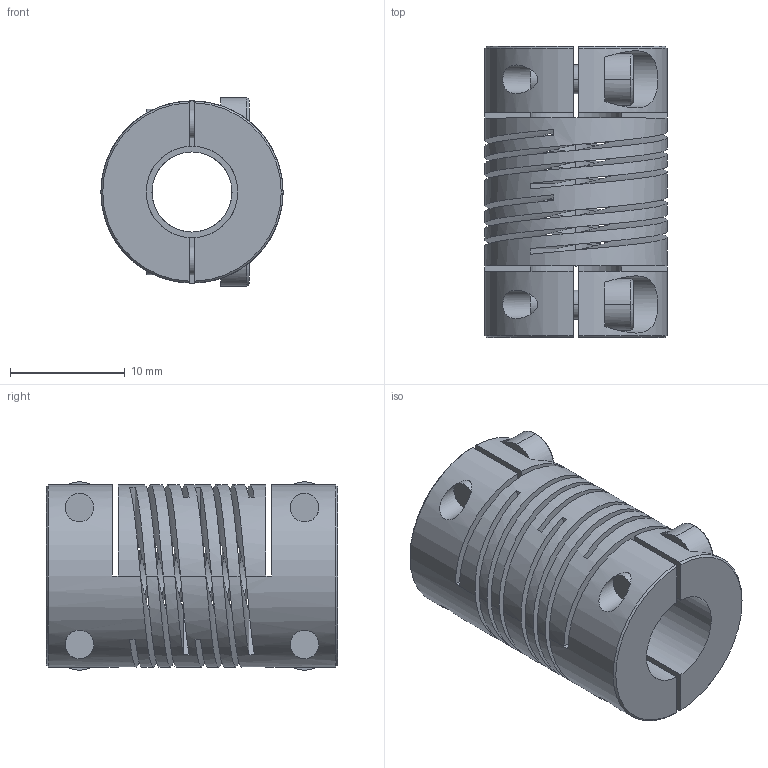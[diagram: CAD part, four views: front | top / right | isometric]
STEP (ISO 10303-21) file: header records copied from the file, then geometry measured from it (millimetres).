
FILE_DESCRIPTION((''),'2;1');
FILE_NAME('703_16','2006-12-06T',('Gary Melling'),(''),'PRO/ENGINEER BY PARAMETRIC TECHNOLOGY CORPORATION, 2006240','PRO/ENGINEER BY PARAMETRIC TECHNOLOGY CORPORATION, 2006240','');
FILE_SCHEMA(('CONFIG_CONTROL_DESIGN'));
Length unit declared in the file: millimetre
Products named in the file (1): 703_16
Bounding box: 15.9 x 25.4 x 16.45 mm (x, y, z)
Volume: 3225.3 mm3; surface area: 4717.8 mm2
Topology: 1 solids, 1 shells, 156 faces, 426 edges, 272 vertices
Faces by surface type: plane 82, cylinder 50, bspline 12, cone 12
Entity records: 6967 total; most frequent: CARTESIAN_POINT 3081, ORIENTED_EDGE 852, DIRECTION 718, EDGE_CURVE 426, VERTEX_POINT 272, AXIS2_PLACEMENT_3D 240, VECTOR 238, LINE 238
